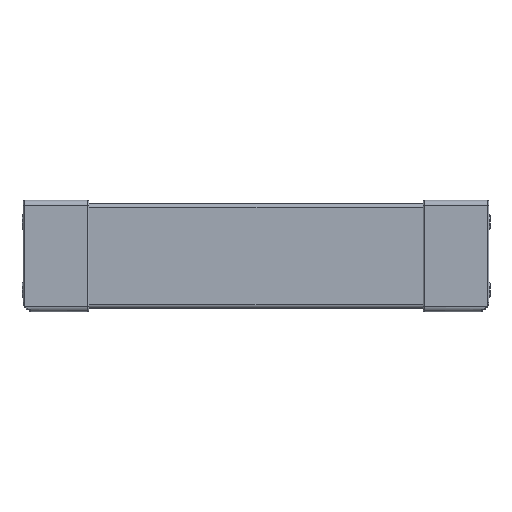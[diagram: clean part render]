
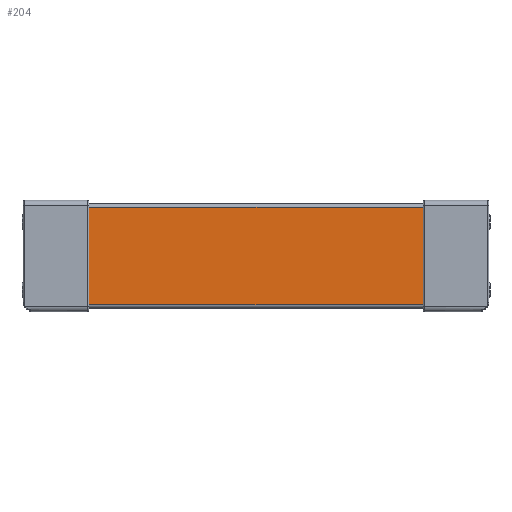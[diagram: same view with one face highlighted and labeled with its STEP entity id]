
A CAD part, top view. The second image highlights one B-rep face of the part: STEP entity #204.
In plain terms, the highlighted planar face has unit normal (0, 0, 1).
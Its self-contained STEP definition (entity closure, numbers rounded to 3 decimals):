
#184 = ORIENTED_EDGE ( 'NONE', *, *, #199, .T. ) ;
#185 = VERTEX_POINT ( 'NONE', #927 ) ;
#189 = ORIENTED_EDGE ( 'NONE', *, *, #190, .F. ) ;
#190 = EDGE_CURVE ( 'NONE', #211, #185, #2565, .T. ) ;
#199 = EDGE_CURVE ( 'NONE', #218, #185, #2566, .T. ) ;
#200 = EDGE_LOOP ( 'NONE', ( #201, #212, #184, #189 ) ) ;
#201 = ORIENTED_EDGE ( 'NONE', *, *, #210, .F. ) ;
#203 = EDGE_CURVE ( 'NONE', #275, #218, #2545, .T. ) ;
#204 = ADVANCED_FACE ( 'NONE', ( #2554 ), #2534, .F. ) ;
#210 = EDGE_CURVE ( 'NONE', #275, #211, #2576, .T. ) ;
#211 = VERTEX_POINT ( 'NONE', #2583 ) ;
#212 = ORIENTED_EDGE ( 'NONE', *, *, #203, .T. ) ;
#218 = VERTEX_POINT ( 'NONE', #2586 ) ;
#275 = VERTEX_POINT ( 'NONE', #2699 ) ;
#927 = CARTESIAN_POINT ( 'NONE',  ( -95.7, -27.9, 4.9 ) ) ;
#2527 = AXIS2_PLACEMENT_3D ( 'NONE', #2536, #2528, #2533 ) ;
#2528 = DIRECTION ( 'NONE',  ( 0., 0., -1. ) ) ;
#2533 = DIRECTION ( 'NONE',  ( -1., 0., 0. ) ) ;
#2534 = PLANE ( 'NONE',  #2527 ) ;
#2536 = CARTESIAN_POINT ( 'NONE',  ( 133.2, 27.9, 4.9 ) ) ;
#2543 = VECTOR ( 'NONE', #2555, 1000. ) ;
#2544 = CARTESIAN_POINT ( 'NONE',  ( 133.2, 27.9, 4.9 ) ) ;
#2545 = LINE ( 'NONE', #2544, #2543 ) ;
#2551 = DIRECTION ( 'NONE',  ( -1., 0., 0. ) ) ;
#2554 = FACE_OUTER_BOUND ( 'NONE', #200, .T. ) ;
#2555 = DIRECTION ( 'NONE',  ( -1., 0., 0. ) ) ;
#2556 = CARTESIAN_POINT ( 'NONE',  ( 133.2, -27.9, 4.9 ) ) ;
#2559 = VECTOR ( 'NONE', #2551, 1000. ) ;
#2560 = DIRECTION ( 'NONE',  ( 0., -1., 0. ) ) ;
#2561 = VECTOR ( 'NONE', #2560, 1000. ) ;
#2562 = CARTESIAN_POINT ( 'NONE',  ( -95.7, 27.9, 4.9 ) ) ;
#2565 = LINE ( 'NONE', #2556, #2559 ) ;
#2566 = LINE ( 'NONE', #2562, #2561 ) ;
#2572 = DIRECTION ( 'NONE',  ( 0., -1., 0. ) ) ;
#2573 = VECTOR ( 'NONE', #2572, 1000. ) ;
#2575 = CARTESIAN_POINT ( 'NONE',  ( 95.7, 27.9, 4.9 ) ) ;
#2576 = LINE ( 'NONE', #2575, #2573 ) ;
#2583 = CARTESIAN_POINT ( 'NONE',  ( 95.7, -27.9, 4.9 ) ) ;
#2586 = CARTESIAN_POINT ( 'NONE',  ( -95.7, 27.9, 4.9 ) ) ;
#2699 = CARTESIAN_POINT ( 'NONE',  ( 95.7, 27.9, 4.9 ) ) ;
